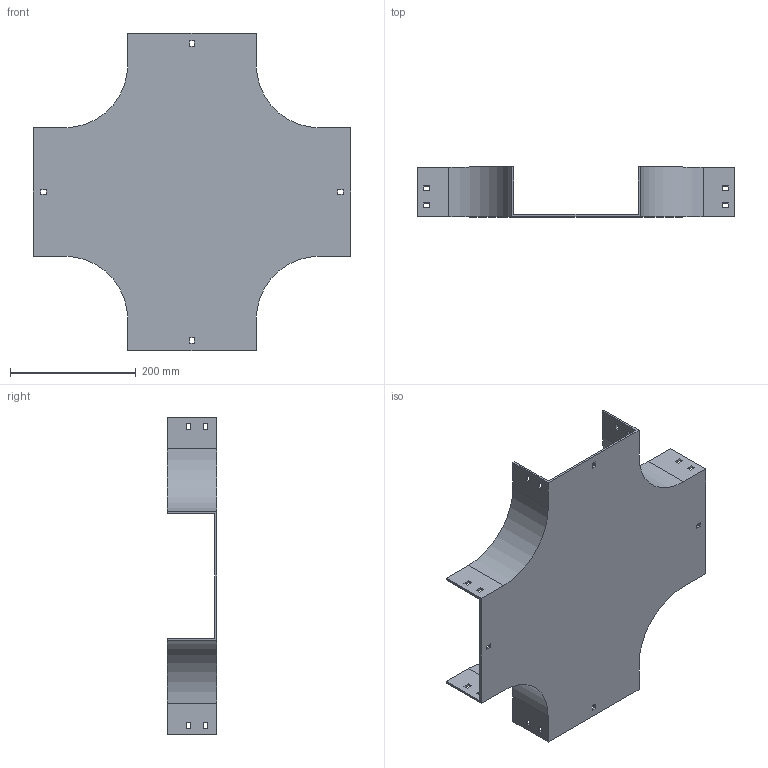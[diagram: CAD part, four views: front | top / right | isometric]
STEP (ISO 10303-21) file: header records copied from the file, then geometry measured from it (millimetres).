
FILE_DESCRIPTION (( 'STEP AP214' ), '1' );
FILE_NAME ('17B1C200.step', '2025-02-21T09:58:15', ( '' ), ( '' ), 'SwSTEP 2.0', 'SolidWorks 2023', '' );
FILE_SCHEMA (( 'AUTOMOTIVE_DESIGN' ));
Length unit declared in the file: millimetre
Products named in the file (1): 17B1C200
Bounding box: 504 x 79 x 504 mm (x, y, z)
Volume: 874000 mm3; surface area: 510335.7 mm2
Topology: 1 solids, 1 shells, 114 faces, 336 edges, 224 vertices
Faces by surface type: plane 106, cylinder 8
Entity records: 3839 total; most frequent: CARTESIAN_POINT 675, ORIENTED_EDGE 672, DIRECTION 582, EDGE_CURVE 336, LINE 320, VECTOR 320, VERTEX_POINT 224, EDGE_LOOP 154
